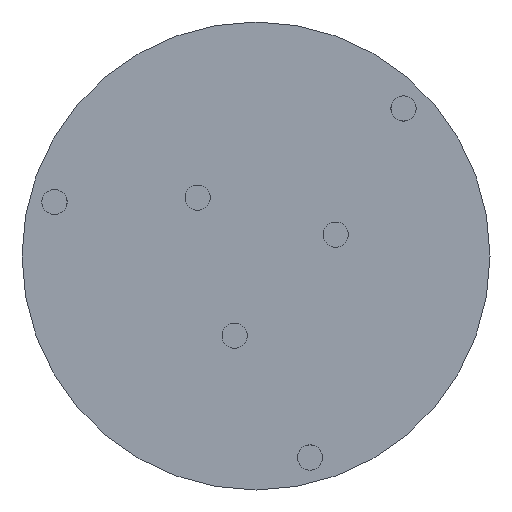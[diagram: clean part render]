
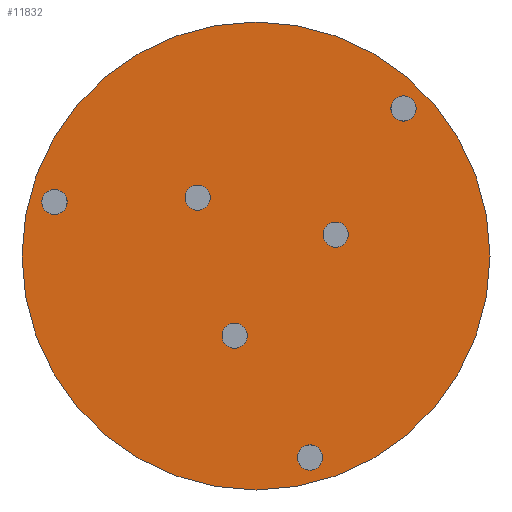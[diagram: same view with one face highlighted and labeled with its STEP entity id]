
A CAD part, front view. The second image highlights one B-rep face of the part: STEP entity #11832.
In plain terms, the highlighted planar face has unit normal (0, -1, 0).
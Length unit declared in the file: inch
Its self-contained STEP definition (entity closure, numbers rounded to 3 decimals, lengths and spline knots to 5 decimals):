
#209 = EDGE_CURVE ( 'NONE', #8558, #5407, #8002, .T. ) ;
#226 = CARTESIAN_POINT ( 'NONE',  ( 0.32324, -0.5221, 0.08661 ) ) ;
#284 = DIRECTION ( 'NONE',  ( 0., 0., 1. ) ) ;
#318 = CIRCLE ( 'NONE', #515, 0.05118 ) ;
#341 = ORIENTED_EDGE ( 'NONE', *, *, #11473, .T. ) ;
#515 = AXIS2_PLACEMENT_3D ( 'NONE', #9987, #10883, #1729 ) ;
#797 = ORIENTED_EDGE ( 'NONE', *, *, #7183, .T. ) ;
#1082 = CIRCLE ( 'NONE', #3875, 0.05118 ) ;
#1107 = EDGE_CURVE ( 'NONE', #6089, #1487, #7845, .T. ) ;
#1190 = FACE_BOUND ( 'NONE', #2497, .T. ) ;
#1204 = CARTESIAN_POINT ( 'NONE',  ( 0.21903, -0.5221, -0.86861 ) ) ;
#1285 = VERTEX_POINT ( 'NONE', #1204 ) ;
#1327 = EDGE_CURVE ( 'NONE', #3030, #11223, #1082, .T. ) ;
#1349 = CARTESIAN_POINT ( 'NONE',  ( 0.21903, -0.5221, -0.76624 ) ) ;
#1487 = VERTEX_POINT ( 'NONE', #10367 ) ;
#1519 = VERTEX_POINT ( 'NONE', #10140 ) ;
#1536 = CARTESIAN_POINT ( 'NONE',  ( 0.32324, -0.5221, 0.13779 ) ) ;
#1729 = DIRECTION ( 'NONE',  ( 0., 0., 1. ) ) ;
#1919 = ORIENTED_EDGE ( 'NONE', *, *, #1327, .T. ) ;
#1945 = CARTESIAN_POINT ( 'NONE',  ( -0.81742, -0.5221, 0.27021 ) ) ;
#1992 = AXIS2_PLACEMENT_3D ( 'NONE', #7611, #12878, #8551 ) ;
#2142 = ORIENTED_EDGE ( 'NONE', *, *, #4815, .T. ) ;
#2272 = CARTESIAN_POINT ( 'NONE',  ( -0.23663, -0.5221, 0.28781 ) ) ;
#2376 = EDGE_CURVE ( 'NONE', #2712, #7147, #5217, .T. ) ;
#2497 = EDGE_LOOP ( 'NONE', ( #4677, #1919 ) ) ;
#2518 = FACE_BOUND ( 'NONE', #4041, .T. ) ;
#2621 = ORIENTED_EDGE ( 'NONE', *, *, #6461, .T. ) ;
#2706 = CARTESIAN_POINT ( 'NONE',  ( -0.23663, -0.5221, 0.23663 ) ) ;
#2712 = VERTEX_POINT ( 'NONE', #3371 ) ;
#2780 = CARTESIAN_POINT ( 'NONE',  ( 0., -0.5221, 0.949 ) ) ;
#2952 = FACE_OUTER_BOUND ( 'NONE', #9462, .T. ) ;
#2962 = DIRECTION ( 'NONE',  ( 0., 1., 0. ) ) ;
#3030 = VERTEX_POINT ( 'NONE', #10112 ) ;
#3080 = ORIENTED_EDGE ( 'NONE', *, *, #1107, .T. ) ;
#3087 = VERTEX_POINT ( 'NONE', #9435 ) ;
#3097 = DIRECTION ( 'NONE',  ( 0., 1., 0. ) ) ;
#3316 = DIRECTION ( 'NONE',  ( 0., 0., -1. ) ) ;
#3352 = DIRECTION ( 'NONE',  ( 0., 0., -1. ) ) ;
#3371 = CARTESIAN_POINT ( 'NONE',  ( -0.81742, -0.5221, 0.16785 ) ) ;
#3380 = FACE_BOUND ( 'NONE', #4422, .T. ) ;
#3419 = AXIS2_PLACEMENT_3D ( 'NONE', #9357, #10272, #3999 ) ;
#3526 = CARTESIAN_POINT ( 'NONE',  ( -0.81742, -0.5221, 0.21903 ) ) ;
#3584 = ORIENTED_EDGE ( 'NONE', *, *, #209, .T. ) ;
#3612 = FACE_BOUND ( 'NONE', #11596, .T. ) ;
#3828 = CIRCLE ( 'NONE', #13831, 0.949 ) ;
#3875 = AXIS2_PLACEMENT_3D ( 'NONE', #13722, #12389, #5018 ) ;
#3974 = DIRECTION ( 'NONE',  ( 0., 1., 0. ) ) ;
#3999 = DIRECTION ( 'NONE',  ( 0., 0., 1. ) ) ;
#4041 = EDGE_LOOP ( 'NONE', ( #9302, #3584 ) ) ;
#4144 = ORIENTED_EDGE ( 'NONE', *, *, #5189, .T. ) ;
#4248 = DIRECTION ( 'NONE',  ( 0., -1., 0. ) ) ;
#4422 = EDGE_LOOP ( 'NONE', ( #10244, #2142 ) ) ;
#4629 = EDGE_CURVE ( 'NONE', #7936, #1285, #7212, .T. ) ;
#4677 = ORIENTED_EDGE ( 'NONE', *, *, #12969, .T. ) ;
#4747 = ORIENTED_EDGE ( 'NONE', *, *, #12876, .T. ) ;
#4768 = DIRECTION ( 'NONE',  ( 0., 1., 0. ) ) ;
#4815 = EDGE_CURVE ( 'NONE', #1285, #7936, #12999, .T. ) ;
#5018 = DIRECTION ( 'NONE',  ( 0., 0., 1. ) ) ;
#5189 = EDGE_CURVE ( 'NONE', #13592, #1519, #7721, .T. ) ;
#5212 = DIRECTION ( 'NONE',  ( 0., -1., 0. ) ) ;
#5217 = CIRCLE ( 'NONE', #12700, 0.05118 ) ;
#5269 = AXIS2_PLACEMENT_3D ( 'NONE', #9641, #4768, #6576 ) ;
#5317 = CIRCLE ( 'NONE', #11935, 0.05118 ) ;
#5407 = VERTEX_POINT ( 'NONE', #2272 ) ;
#5421 = DIRECTION ( 'NONE',  ( 0., 1., 0. ) ) ;
#5767 = DIRECTION ( 'NONE',  ( 0., 0., 1. ) ) ;
#5856 = CARTESIAN_POINT ( 'NONE',  ( -0.08661, -0.5221, -0.27206 ) ) ;
#6031 = AXIS2_PLACEMENT_3D ( 'NONE', #2706, #5421, #10979 ) ;
#6089 = VERTEX_POINT ( 'NONE', #5856 ) ;
#6322 = CARTESIAN_POINT ( 'NONE',  ( 0.5984, -0.5221, 0.64958 ) ) ;
#6361 = DIRECTION ( 'NONE',  ( 0., 0., -1. ) ) ;
#6363 = CARTESIAN_POINT ( 'NONE',  ( -0.81742, -0.5221, 0.21903 ) ) ;
#6461 = EDGE_CURVE ( 'NONE', #7147, #2712, #5317, .T. ) ;
#6576 = DIRECTION ( 'NONE',  ( 0., 0., 1. ) ) ;
#6737 = AXIS2_PLACEMENT_3D ( 'NONE', #11439, #5212, #6361 ) ;
#7072 = PLANE ( 'NONE',  #6737 ) ;
#7147 = VERTEX_POINT ( 'NONE', #1945 ) ;
#7183 = EDGE_CURVE ( 'NONE', #3087, #8631, #9140, .T. ) ;
#7212 = CIRCLE ( 'NONE', #7406, 0.05118 ) ;
#7406 = AXIS2_PLACEMENT_3D ( 'NONE', #7905, #11574, #12717 ) ;
#7611 = CARTESIAN_POINT ( 'NONE',  ( 0.21903, -0.5221, -0.81742 ) ) ;
#7635 = AXIS2_PLACEMENT_3D ( 'NONE', #11856, #12977, #13653 ) ;
#7660 = CIRCLE ( 'NONE', #3419, 0.05118 ) ;
#7678 = DIRECTION ( 'NONE',  ( 0., -1., 0. ) ) ;
#7721 = CIRCLE ( 'NONE', #11459, 0.949 ) ;
#7845 = CIRCLE ( 'NONE', #5269, 0.05118 ) ;
#7905 = CARTESIAN_POINT ( 'NONE',  ( 0.21903, -0.5221, -0.81742 ) ) ;
#7936 = VERTEX_POINT ( 'NONE', #1349 ) ;
#8002 = CIRCLE ( 'NONE', #6031, 0.05118 ) ;
#8324 = EDGE_LOOP ( 'NONE', ( #2621, #12435 ) ) ;
#8551 = DIRECTION ( 'NONE',  ( 0., 0., 1. ) ) ;
#8558 = VERTEX_POINT ( 'NONE', #12738 ) ;
#8597 = EDGE_CURVE ( 'NONE', #1487, #6089, #10230, .T. ) ;
#8631 = VERTEX_POINT ( 'NONE', #6322 ) ;
#8961 = AXIS2_PLACEMENT_3D ( 'NONE', #226, #3097, #10038 ) ;
#9140 = CIRCLE ( 'NONE', #11655, 0.05118 ) ;
#9174 = FACE_BOUND ( 'NONE', #10465, .T. ) ;
#9302 = ORIENTED_EDGE ( 'NONE', *, *, #9670, .T. ) ;
#9357 = CARTESIAN_POINT ( 'NONE',  ( 0.5984, -0.5221, 0.5984 ) ) ;
#9435 = CARTESIAN_POINT ( 'NONE',  ( 0.5984, -0.5221, 0.54721 ) ) ;
#9462 = EDGE_LOOP ( 'NONE', ( #4144, #4747 ) ) ;
#9641 = CARTESIAN_POINT ( 'NONE',  ( -0.08661, -0.5221, -0.32324 ) ) ;
#9670 = EDGE_CURVE ( 'NONE', #5407, #8558, #318, .T. ) ;
#9871 = FACE_BOUND ( 'NONE', #8324, .T. ) ;
#9987 = CARTESIAN_POINT ( 'NONE',  ( -0.23663, -0.5221, 0.23663 ) ) ;
#10038 = DIRECTION ( 'NONE',  ( 0., 0., 1. ) ) ;
#10112 = CARTESIAN_POINT ( 'NONE',  ( 0.32324, -0.5221, 0.03543 ) ) ;
#10140 = CARTESIAN_POINT ( 'NONE',  ( 0., -0.5221, -0.949 ) ) ;
#10230 = CIRCLE ( 'NONE', #7635, 0.05118 ) ;
#10244 = ORIENTED_EDGE ( 'NONE', *, *, #4629, .T. ) ;
#10272 = DIRECTION ( 'NONE',  ( 0., 1., 0. ) ) ;
#10367 = CARTESIAN_POINT ( 'NONE',  ( -0.08661, -0.5221, -0.37442 ) ) ;
#10465 = EDGE_LOOP ( 'NONE', ( #3080, #11301 ) ) ;
#10883 = DIRECTION ( 'NONE',  ( 0., 1., 0. ) ) ;
#10979 = DIRECTION ( 'NONE',  ( 0., 0., 1. ) ) ;
#11090 = CARTESIAN_POINT ( 'NONE',  ( 0.5984, -0.5221, 0.5984 ) ) ;
#11223 = VERTEX_POINT ( 'NONE', #1536 ) ;
#11301 = ORIENTED_EDGE ( 'NONE', *, *, #8597, .T. ) ;
#11439 = CARTESIAN_POINT ( 'NONE',  ( 0., -0.5221, 0. ) ) ;
#11459 = AXIS2_PLACEMENT_3D ( 'NONE', #13210, #4248, #3352 ) ;
#11473 = EDGE_CURVE ( 'NONE', #8631, #3087, #7660, .T. ) ;
#11574 = DIRECTION ( 'NONE',  ( 0., 1., 0. ) ) ;
#11596 = EDGE_LOOP ( 'NONE', ( #341, #797 ) ) ;
#11655 = AXIS2_PLACEMENT_3D ( 'NONE', #11090, #11997, #5767 ) ;
#11832 = ADVANCED_FACE ( 'NONE', ( #9871, #2518, #3612, #1190, #3380, #9174, #2952 ), #7072, .T. ) ;
#11856 = CARTESIAN_POINT ( 'NONE',  ( -0.08661, -0.5221, -0.32324 ) ) ;
#11935 = AXIS2_PLACEMENT_3D ( 'NONE', #6363, #2962, #284 ) ;
#11997 = DIRECTION ( 'NONE',  ( 0., 1., 0. ) ) ;
#12054 = DIRECTION ( 'NONE',  ( 0., 0., 1. ) ) ;
#12389 = DIRECTION ( 'NONE',  ( 0., 1., 0. ) ) ;
#12435 = ORIENTED_EDGE ( 'NONE', *, *, #2376, .T. ) ;
#12559 = CIRCLE ( 'NONE', #8961, 0.05118 ) ;
#12700 = AXIS2_PLACEMENT_3D ( 'NONE', #3526, #3974, #12054 ) ;
#12717 = DIRECTION ( 'NONE',  ( 0., 0., 1. ) ) ;
#12738 = CARTESIAN_POINT ( 'NONE',  ( -0.23663, -0.5221, 0.18545 ) ) ;
#12876 = EDGE_CURVE ( 'NONE', #1519, #13592, #3828, .T. ) ;
#12878 = DIRECTION ( 'NONE',  ( 0., 1., 0. ) ) ;
#12969 = EDGE_CURVE ( 'NONE', #11223, #3030, #12559, .T. ) ;
#12977 = DIRECTION ( 'NONE',  ( 0., 1., 0. ) ) ;
#12999 = CIRCLE ( 'NONE', #1992, 0.05118 ) ;
#13210 = CARTESIAN_POINT ( 'NONE',  ( 0., -0.5221, 0. ) ) ;
#13592 = VERTEX_POINT ( 'NONE', #2780 ) ;
#13607 = CARTESIAN_POINT ( 'NONE',  ( 0., -0.5221, 0. ) ) ;
#13653 = DIRECTION ( 'NONE',  ( 0., 0., 1. ) ) ;
#13722 = CARTESIAN_POINT ( 'NONE',  ( 0.32324, -0.5221, 0.08661 ) ) ;
#13831 = AXIS2_PLACEMENT_3D ( 'NONE', #13607, #7678, #3316 ) ;
